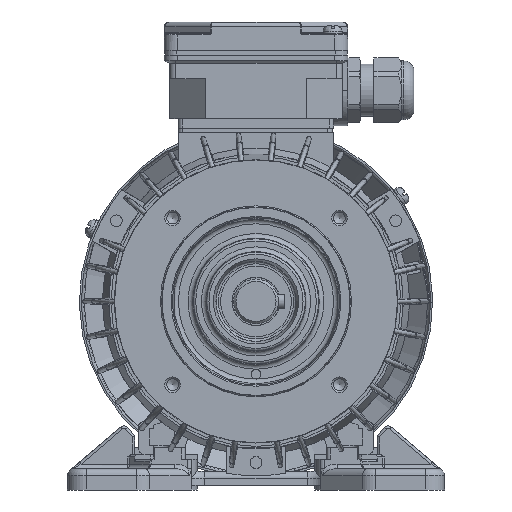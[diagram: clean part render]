
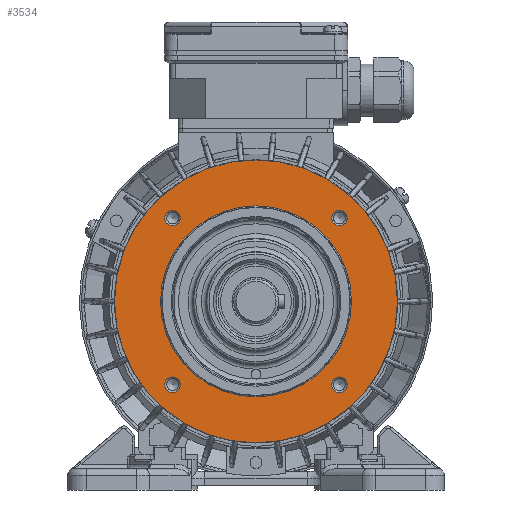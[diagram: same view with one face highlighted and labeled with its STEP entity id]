
A CAD part, left-side view. The second image highlights one B-rep face of the part: STEP entity #3534.
In plain terms, the highlighted planar face has unit normal (-1, 0, 0) as drawn and (0, -1, 0) by its records, which use the part's own axes.
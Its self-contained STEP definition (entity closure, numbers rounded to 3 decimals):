
#3534 = ADVANCED_FACE( '', ( #9174, #9175, #9176, #9177, #9178, #9179 ), #9180, .T. );
#9174 = FACE_BOUND( '', #18202, .T. );
#9175 = FACE_BOUND( '', #18203, .T. );
#9176 = FACE_BOUND( '', #18204, .T. );
#9177 = FACE_BOUND( '', #18205, .T. );
#9178 = FACE_BOUND( '', #18206, .T. );
#9179 = FACE_OUTER_BOUND( '', #18207, .T. );
#9180 = PLANE( '', #18208 );
#18202 = EDGE_LOOP( '', ( #45548 ) );
#18203 = EDGE_LOOP( '', ( #45549 ) );
#18204 = EDGE_LOOP( '', ( #45550 ) );
#18205 = EDGE_LOOP( '', ( #45551 ) );
#18206 = EDGE_LOOP( '', ( #45552 ) );
#18207 = EDGE_LOOP( '', ( #45553 ) );
#18208 = AXIS2_PLACEMENT_3D( '', #45554, #45555, #45556 );
#45548 = ORIENTED_EDGE( '', *, *, #69286, .T. );
#45549 = ORIENTED_EDGE( '', *, *, #69287, .T. );
#45550 = ORIENTED_EDGE( '', *, *, #69288, .T. );
#45551 = ORIENTED_EDGE( '', *, *, #69289, .T. );
#45552 = ORIENTED_EDGE( '', *, *, #69249, .T. );
#45553 = ORIENTED_EDGE( '', *, *, #69290, .T. );
#45554 = CARTESIAN_POINT( '', ( 0., 3., 40. ) );
#45555 = DIRECTION( '', ( 0., -1., 0. ) );
#45556 = DIRECTION( '', ( 0., 0., -1. ) );
#69249 = EDGE_CURVE( '', #79426, #79426, #79427, .F. );
#69286 = EDGE_CURVE( '', #79493, #79493, #79494, .F. );
#69287 = EDGE_CURVE( '', #79495, #79495, #79496, .F. );
#69288 = EDGE_CURVE( '', #79497, #79497, #79498, .F. );
#69289 = EDGE_CURVE( '', #79499, #79499, #79500, .F. );
#69290 = EDGE_CURVE( '', #79501, #79501, #79502, .T. );
#79426 = VERTEX_POINT( '', #94574 );
#79427 = CIRCLE( '', #94575, 40.5 );
#79493 = VERTEX_POINT( '', #94819 );
#79494 = CIRCLE( '', #94820, 3.3 );
#79495 = VERTEX_POINT( '', #94821 );
#79496 = CIRCLE( '', #94822, 3.3 );
#79497 = VERTEX_POINT( '', #94823 );
#79498 = CIRCLE( '', #94824, 3.3 );
#79499 = VERTEX_POINT( '', #94825 );
#79500 = CIRCLE( '', #94826, 3.3 );
#79501 = VERTEX_POINT( '', #94827 );
#79502 = CIRCLE( '', #94828, 60. );
#94574 = CARTESIAN_POINT( '', ( 0., 3., -40.5 ) );
#94575 = AXIS2_PLACEMENT_3D( '', #127664, #127665, #127666 );
#94819 = CARTESIAN_POINT( '', ( -35.355, 3., -38.655 ) );
#94820 = AXIS2_PLACEMENT_3D( '', #127705, #127706, #127707 );
#94821 = CARTESIAN_POINT( '', ( 35.355, 3., -38.655 ) );
#94822 = AXIS2_PLACEMENT_3D( '', #127708, #127709, #127710 );
#94823 = CARTESIAN_POINT( '', ( 35.355, 3., 32.055 ) );
#94824 = AXIS2_PLACEMENT_3D( '', #127711, #127712, #127713 );
#94825 = CARTESIAN_POINT( '', ( -35.355, 3., 32.055 ) );
#94826 = AXIS2_PLACEMENT_3D( '', #127714, #127715, #127716 );
#94827 = CARTESIAN_POINT( '', ( 0., 3., -60. ) );
#94828 = AXIS2_PLACEMENT_3D( '', #127717, #127718, #127719 );
#127664 = CARTESIAN_POINT( '', ( 0., 3., 0. ) );
#127665 = DIRECTION( '', ( 0., -1., 0. ) );
#127666 = DIRECTION( '', ( 0., 0., -1. ) );
#127705 = CARTESIAN_POINT( '', ( -35.355, 3., -35.355 ) );
#127706 = DIRECTION( '', ( 0., -1., 0. ) );
#127707 = DIRECTION( '', ( 0., 0., -1. ) );
#127708 = CARTESIAN_POINT( '', ( 35.355, 3., -35.355 ) );
#127709 = DIRECTION( '', ( 0., -1., 0. ) );
#127710 = DIRECTION( '', ( 0., 0., -1. ) );
#127711 = CARTESIAN_POINT( '', ( 35.355, 3., 35.355 ) );
#127712 = DIRECTION( '', ( 0., -1., 0. ) );
#127713 = DIRECTION( '', ( 0., 0., -1. ) );
#127714 = CARTESIAN_POINT( '', ( -35.355, 3., 35.355 ) );
#127715 = DIRECTION( '', ( 0., -1., 0. ) );
#127716 = DIRECTION( '', ( 0., 0., -1. ) );
#127717 = CARTESIAN_POINT( '', ( 0., 3., 0. ) );
#127718 = DIRECTION( '', ( 0., -1., 0. ) );
#127719 = DIRECTION( '', ( 0., 0., -1. ) );
